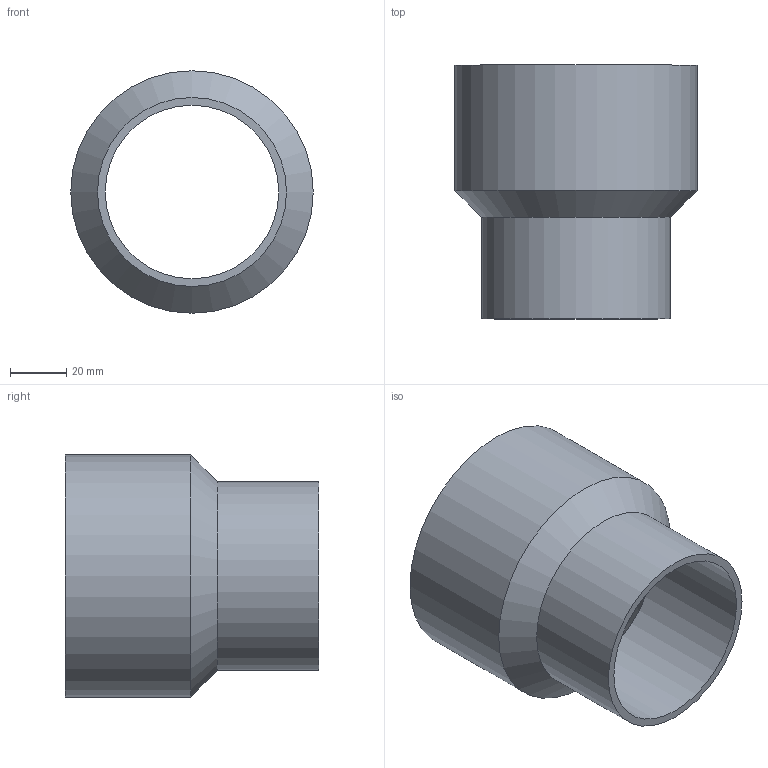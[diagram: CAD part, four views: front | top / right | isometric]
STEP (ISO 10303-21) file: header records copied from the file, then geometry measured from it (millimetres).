
FILE_DESCRIPTION(/* description */ (''),/* implementation_level */ '2;1');
FILE_NAME(/* name */ 'P:\Adapter\A 67a_80i.stp',/* time_stamp */ '2017-10-05T08:13:09+02:00',/* author */ ('neufeld'),/* organization */ (''),/* preprocessor_version */ 'ST-DEVELOPER v16.1',/* originating_system */ 'Autodesk Inventor 2016',/* authorisation */ '');
FILE_SCHEMA (('AUTOMOTIVE_DESIGN { 1 0 10303 214 3 1 1 }'));
Length unit declared in the file: millimetre
Products named in the file (2): A 67a_80i; A 67a_80i_1
Assembly tree (1 placements, depth 2):
  A 67a_80i_1
    A 67a_80i
Bounding box: 86 x 90 x 86 mm (x, y, z)
Volume: 70891.8 mm3; surface area: 44965.8 mm2
Topology: 1 solids, 1 shells, 8 faces, 14 edges, 8 vertices
Faces by surface type: cylinder 4, cone 2, plane 2
Full cylindrical faces by diameter (mm): 61.5 x1, 67 x1, 80.3 x1, 86 x1
Entity records: 212 total; most frequent: DIRECTION 38, CARTESIAN_POINT 27, AXIS2_PLACEMENT_3D 19, EDGE_LOOP 16, ORIENTED_EDGE 16, FACE_BOUND 8, FACE_OUTER_BOUND 8, CIRCLE 8
